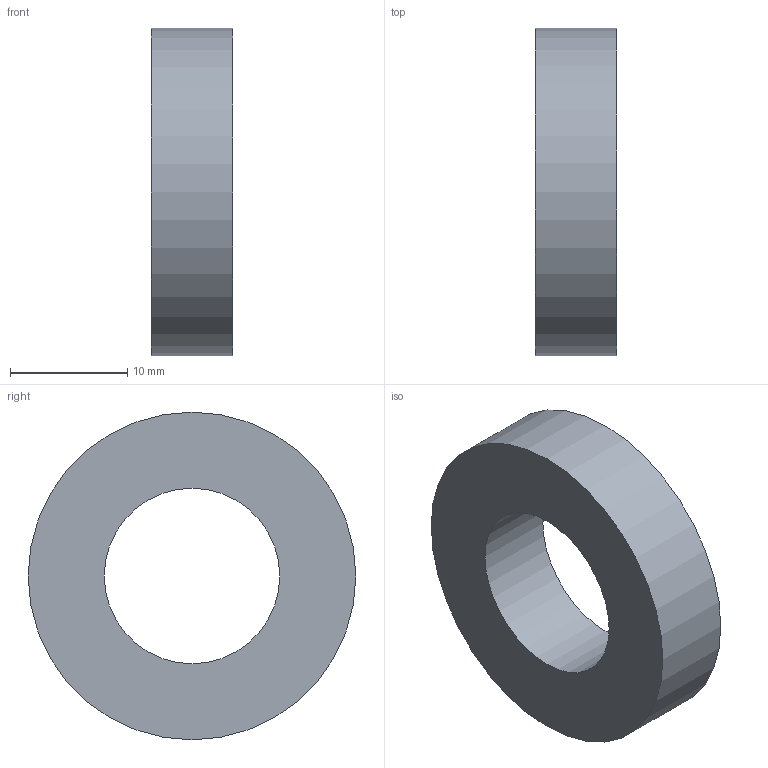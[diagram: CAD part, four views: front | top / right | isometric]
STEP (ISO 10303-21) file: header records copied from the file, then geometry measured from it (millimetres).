
FILE_DESCRIPTION(('Open CASCADE Model'),'2;1');
FILE_NAME('Open CASCADE Shape Model','2026-10-31T23:30:31',('Author'),( 'Open CASCADE'),'Open CASCADE STEP processor 7.9','Open CASCADE 7.9' ,'Unknown');
FILE_SCHEMA(('AUTOMOTIVE_DESIGN { 1 0 10303 214 1 1 1 1 }'));
Length unit declared in the file: millimetre
Products named in the file (1): Open CASCADE STEP translator 7.9 6
Bounding box: 7 x 28 x 28 mm (x, y, z)
Volume: 3073.3 mm3; surface area: 1823.7 mm2
Topology: 1 solids, 1 shells, 4 faces, 6 edges, 4 vertices
Faces by surface type: cylinder 2, plane 2
Full cylindrical faces by diameter (mm): 15 x1, 28 x1
Entity records: 186 total; most frequent: DIRECTION 32, CARTESIAN_POINT 27, ORIENTED_EDGE 12, PCURVE 12, DEFINITIONAL_REPRESENTATION 12, LINE 10, VECTOR 10, AXIS2_PLACEMENT_3D 9
